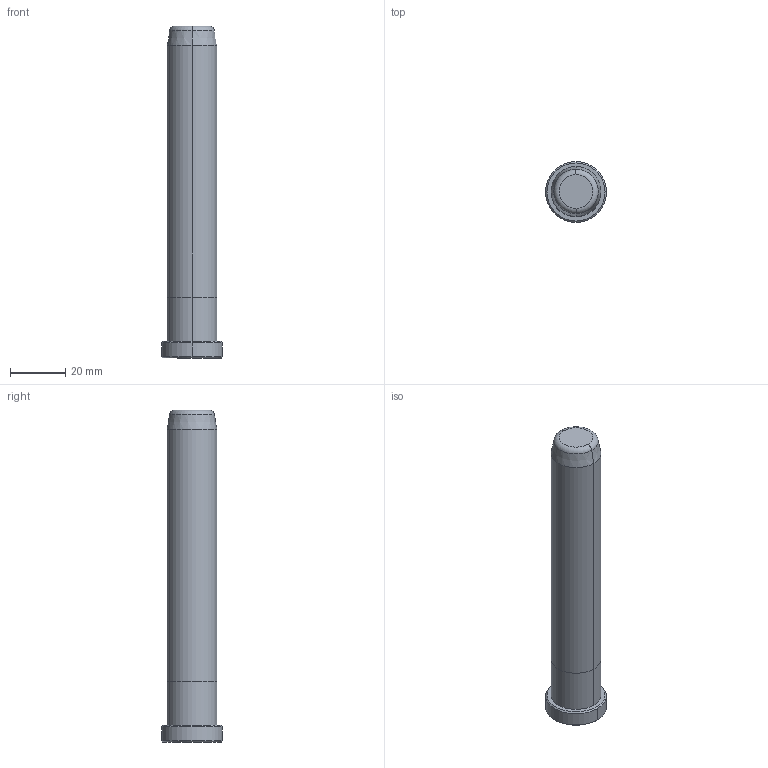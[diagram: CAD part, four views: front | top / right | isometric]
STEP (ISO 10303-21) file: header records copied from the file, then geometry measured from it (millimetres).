
FILE_DESCRIPTION((''),'2;1');
FILE_NAME('B82818120','2018-01-22T',('MANU'),(''),'PRO/ENGINEER BY PARAMETRIC TECHNOLOGY CORPORATION, 2012130','PRO/ENGINEER BY PARAMETRIC TECHNOLOGY CORPORATION, 2012130','');
FILE_SCHEMA(('CONFIG_CONTROL_DESIGN'));
Length unit declared in the file: millimetre
Products named in the file (1): B82818120
Bounding box: 22 x 22 x 120 mm (x, y, z)
Volume: 31022.7 mm3; surface area: 7466 mm2
Topology: 1 solids, 1 shells, 18 faces, 34 edges, 20 vertices
Faces by surface type: cone 6, cylinder 6, plane 4, torus 2
Entity records: 494 total; most frequent: DIRECTION 92, CARTESIAN_POINT 72, ORIENTED_EDGE 68, AXIS2_PLACEMENT_3D 40, EDGE_CURVE 34, CIRCLE 22, VERTEX_POINT 20, EDGE_LOOP 20
